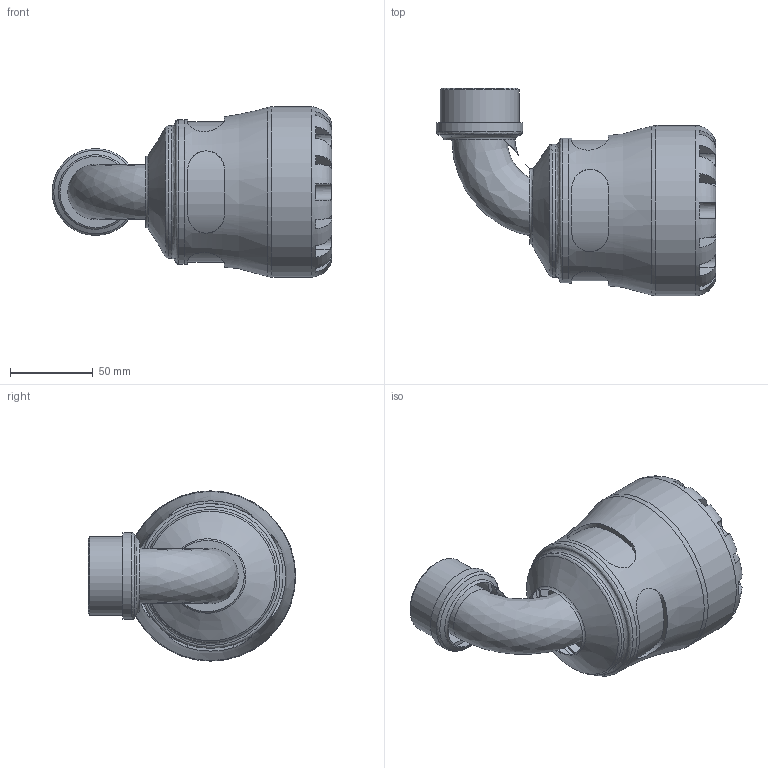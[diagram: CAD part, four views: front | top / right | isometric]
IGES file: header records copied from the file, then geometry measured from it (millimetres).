
Global section: file name: 107700063015_197700063015.ipt; native system: Autodesk Inventor 2015; preprocessor: unknown; author: KIM; date: 20180513.110423; units: millimetre
Bounding box: 169.29 x 125.5 x 103 mm (x, y, z)
Volume: 495761.2 mm3; surface area: 87472.6 mm2
Topology: 1 solids, 1 shells, 111 faces, 288 edges, 182 vertices
Faces by surface type: plane 60, revolution 27, cylinder 17, bspline 5, cone 2
Full cylindrical faces by diameter (mm): 47.803 x1, 52.583 x1, 80.34 x1, 87.55 x1, 103 x1
